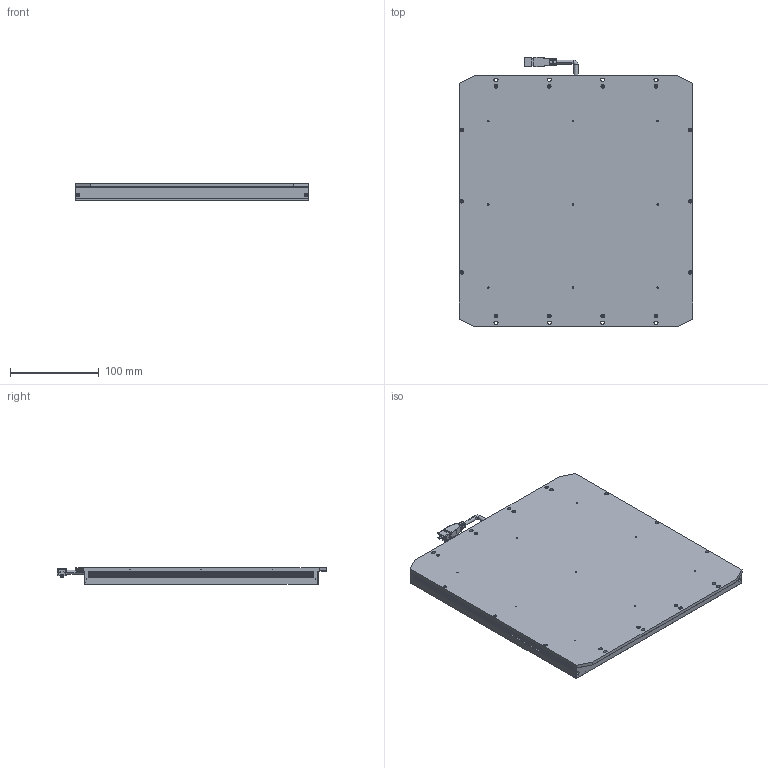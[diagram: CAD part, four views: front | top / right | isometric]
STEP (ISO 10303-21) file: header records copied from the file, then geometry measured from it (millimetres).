
FILE_DESCRIPTION((''),'2;1');
FILE_NAME('PRT0001','2022-11-04T18:16:28',('lizhoupeng'),(''),'CREO PARAMETRIC BY PTC INC, 2020044','CREO PARAMETRIC BY PTC INC, 2020044','');
FILE_SCHEMA(('CONFIG_CONTROL_DESIGN'));
Length unit declared in the file: millimetre
Products named in the file (1): PRT0001
Bounding box: 263 x 302.75 x 19 mm (x, y, z)
Volume: 1331749.2 mm3; surface area: 178969 mm2
Topology: 1 solids, 75 shells, 2078 faces, 4815 edges, 2877 vertices
Faces by surface type: plane 1211, cylinder 562, cone 211, torus 78, sphere 8, bspline 8
Entity records: 58271 total; most frequent: CARTESIAN_POINT 11174, DIRECTION 9922, ORIENTED_EDGE 9504, EDGE_CURVE 4752, AXIS2_PLACEMENT_3D 3412, VECTOR 3098, LINE 3098, VERTEX_POINT 2877
